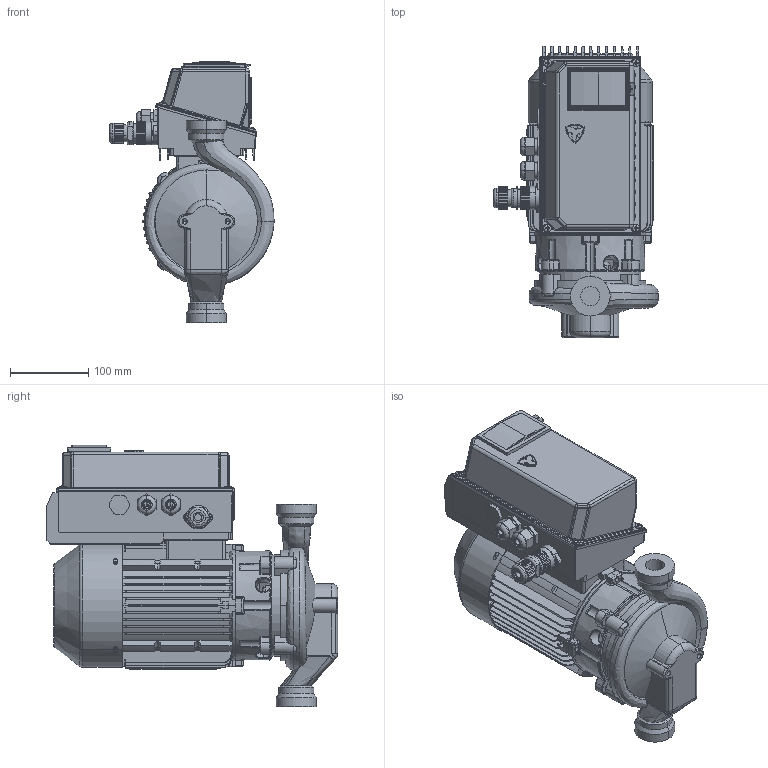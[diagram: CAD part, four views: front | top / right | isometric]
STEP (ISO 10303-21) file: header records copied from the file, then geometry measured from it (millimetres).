
FILE_DESCRIPTION(('STEP AP214'),'1');
FILE_NAME('export.stp','2018-05-31T10:44:48',(' '),(' '),'Spatial InterOp 3D',' ',' ');
FILE_SCHEMA(('AUTOMOTIVE_DESIGN { 1 0 10303 214 1 1 1 1 }'));
Length unit declared in the file: millimetre
Products named in the file (34): W_AEP262SC650KP; V_TLAEAP202526; V_PPAEP26; 160018; 160002_Valu; V_MKP801N12VS; 160039___; 160040___; 160133; P100518; P100576; P100453; P100467; DIN_7985-M5x12; P100515; P100512; P100513; P100514; P100509; ontto_sylinteri; DIN_7985-M3x12; P100569; P100567; P100566; P100565; P100606; P100607; P100580; P101504; P101332; PART3; PART4
Assembly tree (38 placements, depth 4):
  W_AEP262SC650KP
    V_TLAEAP202526
    V_PPAEP26
    V_MKP801N12VS
      160018
        160002_Valu
      160039___
      160040___
      160133
    P100518
      P100576
      P100453
      P100467
      DIN_7985-M5x12  x4
      P100515
        P100512
        P100513
        P100514
        P100509
        ontto_sylinteri
      DIN_7985-M3x12  x2
      P100569
      P100567
        P100566
        P100565
        ontto_sylinteri
      P100606
        P100607
        P100565
        ontto_sylinteri
      P100580
      P101504
      P101332
        PART3
        PART4
Bounding box: 210.6 x 373.28 x 335.54 mm (x, y, z)
Volume: 2337252.9 mm3; surface area: 1037334.7 mm2
Topology: 31 solids, 31 shells, 4480 faces, 11737 edges, 7366 vertices
Faces by surface type: plane 1811, cylinder 1412, torus 445, bspline 432, cone 225, sphere 155
Entity records: 189765 total; most frequent: CARTESIAN_POINT 59072, ORIENTED_EDGE 22734, DIRECTION 21830, EDGE_CURVE 11367, AXIS2_PLACEMENT_3D 8237, VERTEX_POINT 7192, LINE 5356, VECTOR 5356
